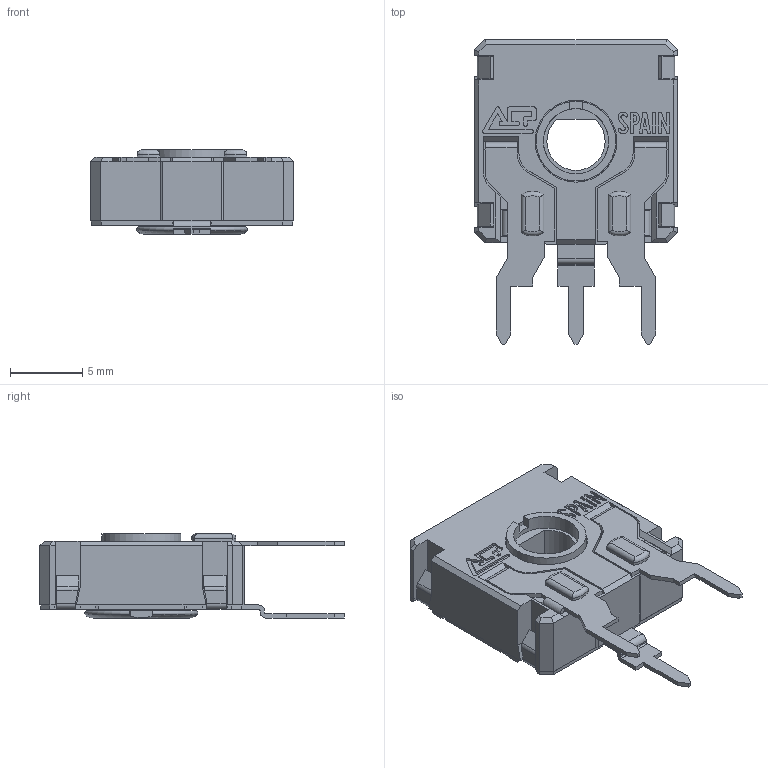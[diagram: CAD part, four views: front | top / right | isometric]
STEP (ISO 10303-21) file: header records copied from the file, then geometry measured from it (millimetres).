
FILE_DESCRIPTION(/* description */ (''),/* implementation_level */ '2;1');
FILE_NAME(/* name */ 'C:\Users\CEM\Desktop\ENVIAR\TRANSICION 3D CATALOGOS\CS14FH5.stp',/* time_stamp */ '2025-10-24T17:48:24+02:00',/* author */ ('CEM'),/* organization */ (''),/* preprocessor_version */ 'ST-DEVELOPER v17',/* originating_system */ 'Autodesk Inventor 2018',/* authorisation */ '');
FILE_SCHEMA (('AUTOMOTIVE_DESIGN { 1 0 10303 214 3 1 1 }'));
Length unit declared in the file: millimetre
Products named in the file (1): CS14FH5
Bounding box: 14 x 21 x 5.8 mm (x, y, z)
Volume: 545.4 mm3; surface area: 1577.5 mm2
Topology: 1 solids, 3 shells, 700 faces, 1966 edges, 1269 vertices
Faces by surface type: plane 537, cylinder 129, cone 15, bspline 10, torus 9
Full cylindrical faces by diameter (mm): 4.5 x1, 5.5 x1, 5.65 x1, 6.87 x1
Entity records: 23376 total; most frequent: CARTESIAN_POINT 4363, ORIENTED_EDGE 3932, DIRECTION 3648, EDGE_CURVE 1966, LINE 1556, VECTOR 1556, VERTEX_POINT 1269, AXIS2_PLACEMENT_3D 1046
